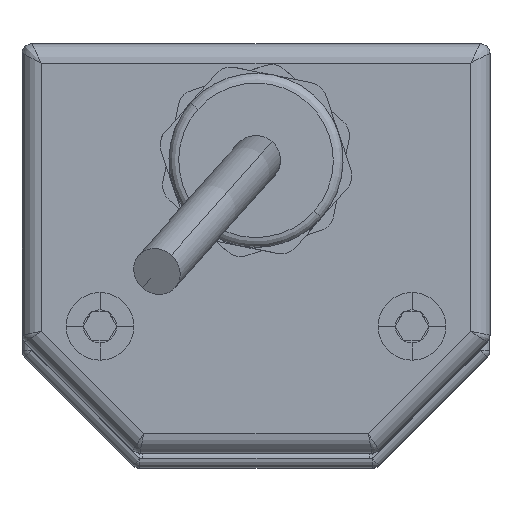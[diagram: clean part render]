
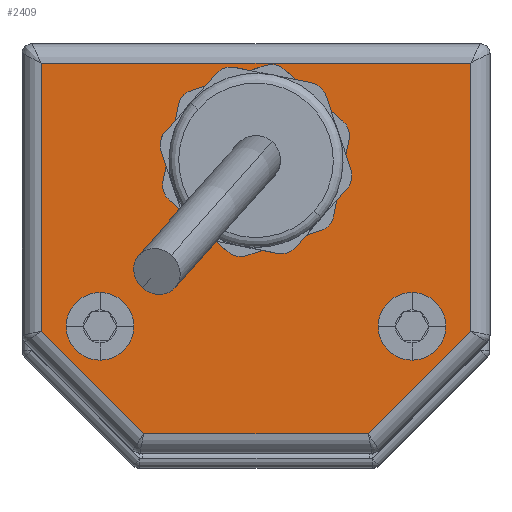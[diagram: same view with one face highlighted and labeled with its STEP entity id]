
A CAD part, top view. The second image highlights one B-rep face of the part: STEP entity #2409.
In plain terms, the highlighted planar face has unit normal (0, 0, 1).
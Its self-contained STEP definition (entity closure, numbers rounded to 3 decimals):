
#357 = VERTEX_POINT ( 'NONE', #1508 ) ;
#425 = VERTEX_POINT ( 'NONE', #7378 ) ;
#565 = DIRECTION ( 'NONE',  ( 0., 1., 0. ) ) ;
#907 = CARTESIAN_POINT ( 'NONE',  ( 16., -27., 8. ) ) ;
#1127 = CARTESIAN_POINT ( 'NONE',  ( 0., -38., 8. ) ) ;
#1195 = VECTOR ( 'NONE', #9994, 1000. ) ;
#1470 = FACE_BOUND ( 'NONE', #15289, .T. ) ;
#1508 = CARTESIAN_POINT ( 'NONE',  ( -19.47, -27., 8. ) ) ;
#1798 = FACE_OUTER_BOUND ( 'NONE', #10448, .T. ) ;
#2287 = CARTESIAN_POINT ( 'NONE',  ( 22., -27.5, 8. ) ) ;
#2409 = ADVANCED_FACE ( 'NONE', ( #5542, #1798, #1470, #11607 ), #4071, .T. ) ;
#2463 = EDGE_CURVE ( 'NONE', #10610, #8417, #14598, .T. ) ;
#2466 = AXIS2_PLACEMENT_3D ( 'NONE', #15636, #11780, #7922 ) ;
#2526 = ORIENTED_EDGE ( 'NONE', *, *, #15947, .T. ) ;
#2704 = EDGE_CURVE ( 'NONE', #3211, #9371, #11422, .T. ) ;
#2820 = DIRECTION ( 'NONE',  ( 1., 0., 0. ) ) ;
#3211 = VERTEX_POINT ( 'NONE', #15095 ) ;
#3249 = CARTESIAN_POINT ( 'NONE',  ( 24.75, -24.75, 8. ) ) ;
#3364 = EDGE_CURVE ( 'NONE', #13322, #357, #4755, .T. ) ;
#3440 = ORIENTED_EDGE ( 'NONE', *, *, #7997, .T. ) ;
#3712 = AXIS2_PLACEMENT_3D ( 'NONE', #10558, #5818, #10805 ) ;
#3992 = DIRECTION ( 'NONE',  ( 1., 0., 0. ) ) ;
#4027 = EDGE_CURVE ( 'NONE', #7054, #3211, #4235, .T. ) ;
#4071 = PLANE ( 'NONE',  #12787 ) ;
#4078 = CARTESIAN_POINT ( 'NONE',  ( 19.47, -27., 8. ) ) ;
#4124 = CARTESIAN_POINT ( 'NONE',  ( 0., -10., 8. ) ) ;
#4235 = LINE ( 'NONE', #15706, #9877 ) ;
#4291 = EDGE_CURVE ( 'NONE', #9387, #425, #12319, .T. ) ;
#4755 = CIRCLE ( 'NONE', #3712, 3.47 ) ;
#5077 = DIRECTION ( 'NONE',  ( 1., 0., 0. ) ) ;
#5427 = DIRECTION ( 'NONE',  ( 0.707, -0.707, 0. ) ) ;
#5508 = DIRECTION ( 'NONE',  ( 1., 0., 0. ) ) ;
#5542 = FACE_BOUND ( 'NONE', #10858, .T. ) ;
#5818 = DIRECTION ( 'NONE',  ( 0., 0., 1. ) ) ;
#6002 = DIRECTION ( 'NONE',  ( 0., 0., -1. ) ) ;
#6315 = CARTESIAN_POINT ( 'NONE',  ( 0., -10., 8. ) ) ;
#6513 = VECTOR ( 'NONE', #5427, 1000. ) ;
#6649 = CIRCLE ( 'NONE', #12403, 3.47 ) ;
#7054 = VERTEX_POINT ( 'NONE', #2287 ) ;
#7298 = ORIENTED_EDGE ( 'NONE', *, *, #2463, .F. ) ;
#7349 = CARTESIAN_POINT ( 'NONE',  ( -11.5, -38., 8. ) ) ;
#7353 = EDGE_CURVE ( 'NONE', #8417, #10610, #12389, .T. ) ;
#7378 = CARTESIAN_POINT ( 'NONE',  ( 11.5, -38., 8. ) ) ;
#7555 = EDGE_CURVE ( 'NONE', #14314, #7977, #15829, .T. ) ;
#7829 = VERTEX_POINT ( 'NONE', #14283 ) ;
#7848 = EDGE_CURVE ( 'NONE', #357, #13322, #6649, .T. ) ;
#7861 = LINE ( 'NONE', #8926, #1195 ) ;
#7922 = DIRECTION ( 'NONE',  ( 1., 0., 0. ) ) ;
#7956 = AXIS2_PLACEMENT_3D ( 'NONE', #4124, #12637, #2820 ) ;
#7977 = VERTEX_POINT ( 'NONE', #14856 ) ;
#7997 = EDGE_CURVE ( 'NONE', #9371, #7829, #7861, .T. ) ;
#8417 = VERTEX_POINT ( 'NONE', #4078 ) ;
#8616 = ORIENTED_EDGE ( 'NONE', *, *, #15183, .T. ) ;
#8640 = AXIS2_PLACEMENT_3D ( 'NONE', #6315, #6002, #5077 ) ;
#8926 = CARTESIAN_POINT ( 'NONE',  ( -22., 0., 8. ) ) ;
#9020 = ORIENTED_EDGE ( 'NONE', *, *, #10025, .T. ) ;
#9275 = CARTESIAN_POINT ( 'NONE',  ( -24.75, -24.75, 8. ) ) ;
#9371 = VERTEX_POINT ( 'NONE', #10970 ) ;
#9387 = VERTEX_POINT ( 'NONE', #7349 ) ;
#9478 = VECTOR ( 'NONE', #13635, 1000. ) ;
#9479 = ORIENTED_EDGE ( 'NONE', *, *, #7353, .F. ) ;
#9877 = VECTOR ( 'NONE', #565, 1000. ) ;
#9994 = DIRECTION ( 'NONE',  ( 0., -1., 0. ) ) ;
#10025 = EDGE_CURVE ( 'NONE', #425, #7054, #11927, .T. ) ;
#10057 = CARTESIAN_POINT ( 'NONE',  ( 12.53, -27., 8. ) ) ;
#10349 = DIRECTION ( 'NONE',  ( -1., 0., 0. ) ) ;
#10448 = EDGE_LOOP ( 'NONE', ( #9020, #14439, #12052, #3440, #2526, #12547 ) ) ;
#10558 = CARTESIAN_POINT ( 'NONE',  ( -16., -27., 8. ) ) ;
#10610 = VERTEX_POINT ( 'NONE', #10057 ) ;
#10615 = DIRECTION ( 'NONE',  ( 0., 0., 1. ) ) ;
#10805 = DIRECTION ( 'NONE',  ( 1., 0., 0. ) ) ;
#10858 = EDGE_LOOP ( 'NONE', ( #8616, #12571 ) ) ;
#10970 = CARTESIAN_POINT ( 'NONE',  ( -22., 0., 8. ) ) ;
#11006 = ORIENTED_EDGE ( 'NONE', *, *, #3364, .F. ) ;
#11422 = LINE ( 'NONE', #14048, #13569 ) ;
#11439 = DIRECTION ( 'NONE',  ( 0., 0., 1. ) ) ;
#11607 = FACE_BOUND ( 'NONE', #13143, .T. ) ;
#11737 = DIRECTION ( 'NONE',  ( 0., 0., 1. ) ) ;
#11780 = DIRECTION ( 'NONE',  ( 0., 0., 1. ) ) ;
#11927 = LINE ( 'NONE', #3249, #12702 ) ;
#12008 = DIRECTION ( 'NONE',  ( 0.707, 0.707, 0. ) ) ;
#12052 = ORIENTED_EDGE ( 'NONE', *, *, #2704, .T. ) ;
#12099 = ORIENTED_EDGE ( 'NONE', *, *, #7848, .F. ) ;
#12319 = LINE ( 'NONE', #1127, #9478 ) ;
#12389 = CIRCLE ( 'NONE', #2466, 3.47 ) ;
#12403 = AXIS2_PLACEMENT_3D ( 'NONE', #14535, #11737, #5508 ) ;
#12547 = ORIENTED_EDGE ( 'NONE', *, *, #4291, .T. ) ;
#12571 = ORIENTED_EDGE ( 'NONE', *, *, #7555, .T. ) ;
#12637 = DIRECTION ( 'NONE',  ( 0., 0., -1. ) ) ;
#12702 = VECTOR ( 'NONE', #12008, 1000. ) ;
#12760 = AXIS2_PLACEMENT_3D ( 'NONE', #907, #10615, #15632 ) ;
#12787 = AXIS2_PLACEMENT_3D ( 'NONE', #13980, #11439, #3992 ) ;
#13143 = EDGE_LOOP ( 'NONE', ( #9479, #7298 ) ) ;
#13322 = VERTEX_POINT ( 'NONE', #13525 ) ;
#13525 = CARTESIAN_POINT ( 'NONE',  ( -12.53, -27., 8. ) ) ;
#13569 = VECTOR ( 'NONE', #10349, 1000. ) ;
#13635 = DIRECTION ( 'NONE',  ( 1., 0., 0. ) ) ;
#13980 = CARTESIAN_POINT ( 'NONE',  ( 0., 0., 8. ) ) ;
#14048 = CARTESIAN_POINT ( 'NONE',  ( 0., 0., 8. ) ) ;
#14283 = CARTESIAN_POINT ( 'NONE',  ( -22., -27.5, 8. ) ) ;
#14314 = VERTEX_POINT ( 'NONE', #15634 ) ;
#14439 = ORIENTED_EDGE ( 'NONE', *, *, #4027, .T. ) ;
#14535 = CARTESIAN_POINT ( 'NONE',  ( -16., -27., 8. ) ) ;
#14598 = CIRCLE ( 'NONE', #12760, 3.47 ) ;
#14856 = CARTESIAN_POINT ( 'NONE',  ( 5.75, -10., 8. ) ) ;
#15095 = CARTESIAN_POINT ( 'NONE',  ( 22., 0., 8. ) ) ;
#15183 = EDGE_CURVE ( 'NONE', #7977, #14314, #15731, .T. ) ;
#15289 = EDGE_LOOP ( 'NONE', ( #11006, #12099 ) ) ;
#15524 = LINE ( 'NONE', #9275, #6513 ) ;
#15632 = DIRECTION ( 'NONE',  ( 1., 0., 0. ) ) ;
#15634 = CARTESIAN_POINT ( 'NONE',  ( -5.75, -10., 8. ) ) ;
#15636 = CARTESIAN_POINT ( 'NONE',  ( 16., -27., 8. ) ) ;
#15706 = CARTESIAN_POINT ( 'NONE',  ( 22., 0., 8. ) ) ;
#15731 = CIRCLE ( 'NONE', #8640, 5.75 ) ;
#15829 = CIRCLE ( 'NONE', #7956, 5.75 ) ;
#15947 = EDGE_CURVE ( 'NONE', #7829, #9387, #15524, .T. ) ;
